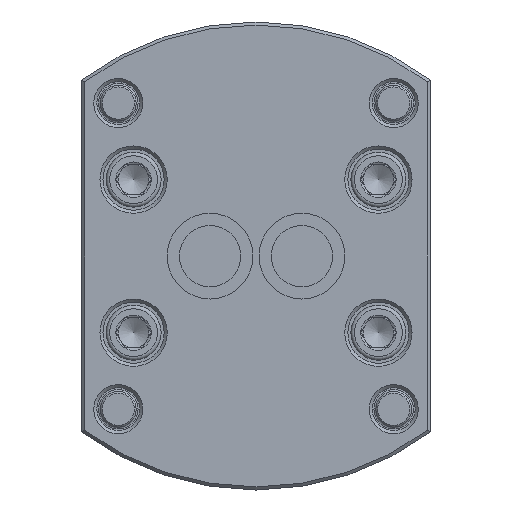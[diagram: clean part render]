
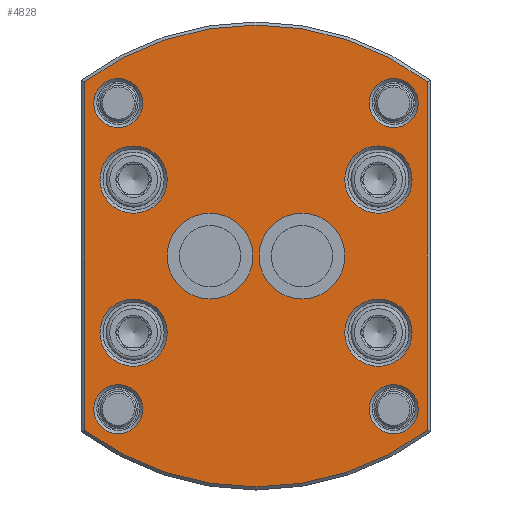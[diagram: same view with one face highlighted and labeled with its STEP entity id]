
A CAD part, front view. The second image highlights one B-rep face of the part: STEP entity #4828.
In plain terms, the highlighted planar face has unit normal (0, -1, 0).
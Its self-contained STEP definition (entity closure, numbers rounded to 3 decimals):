
#2028=LINE('',#22134,#2700);
#2029=LINE('',#22188,#2701);
#2700=VECTOR('',#17897,1.);
#2701=VECTOR('',#17964,1.);
#4828=ADVANCED_FACE('',(#6079,#6080,#6081,#6082,#6083,#6084,#6085,#6086,
#6087,#6088,#6089),#5633,.F.);
#5633=PLANE('',#15571);
#6079=FACE_BOUND('',#6947,.T.);
#6080=FACE_BOUND('',#6948,.T.);
#6081=FACE_BOUND('',#6949,.T.);
#6082=FACE_BOUND('',#6950,.T.);
#6083=FACE_BOUND('',#6951,.T.);
#6084=FACE_BOUND('',#6952,.T.);
#6085=FACE_BOUND('',#6953,.T.);
#6086=FACE_BOUND('',#6954,.T.);
#6087=FACE_BOUND('',#6955,.T.);
#6088=FACE_BOUND('',#6956,.T.);
#6089=FACE_BOUND('',#6957,.T.);
#6947=EDGE_LOOP('',(#8784));
#6948=EDGE_LOOP('',(#8785));
#6949=EDGE_LOOP('',(#8786));
#6950=EDGE_LOOP('',(#8787));
#6951=EDGE_LOOP('',(#8788));
#6952=EDGE_LOOP('',(#8789));
#6953=EDGE_LOOP('',(#8790));
#6954=EDGE_LOOP('',(#8791));
#6955=EDGE_LOOP('',(#8792));
#6956=EDGE_LOOP('',(#8793));
#6957=EDGE_LOOP('',(#8794,#8795,#8796,#8797));
#8784=ORIENTED_EDGE('',*,*,#12988,.T.);
#8785=ORIENTED_EDGE('',*,*,#12985,.T.);
#8786=ORIENTED_EDGE('',*,*,#12982,.T.);
#8787=ORIENTED_EDGE('',*,*,#12979,.T.);
#8788=ORIENTED_EDGE('',*,*,#12991,.T.);
#8789=ORIENTED_EDGE('',*,*,#12992,.T.);
#8790=ORIENTED_EDGE('',*,*,#12976,.T.);
#8791=ORIENTED_EDGE('',*,*,#12973,.T.);
#8792=ORIENTED_EDGE('',*,*,#12962,.F.);
#8793=ORIENTED_EDGE('',*,*,#12958,.F.);
#8794=ORIENTED_EDGE('',*,*,#12968,.T.);
#8795=ORIENTED_EDGE('',*,*,#12993,.T.);
#8796=ORIENTED_EDGE('',*,*,#12964,.T.);
#8797=ORIENTED_EDGE('',*,*,#12972,.T.);
#11627=VERTEX_POINT('',#22090);
#11631=VERTEX_POINT('',#22101);
#11632=VERTEX_POINT('',#22107);
#11634=VERTEX_POINT('',#22110);
#11637=VERTEX_POINT('',#22123);
#11638=VERTEX_POINT('',#22125);
#11640=VERTEX_POINT('',#22137);
#11643=VERTEX_POINT('',#22145);
#11646=VERTEX_POINT('',#22153);
#11649=VERTEX_POINT('',#22161);
#11652=VERTEX_POINT('',#22169);
#11655=VERTEX_POINT('',#22177);
#11658=VERTEX_POINT('',#22185);
#11659=VERTEX_POINT('',#22187);
#12958=EDGE_CURVE('',#11627,#11627,#14462,.T.);
#12962=EDGE_CURVE('',#11631,#11631,#14466,.T.);
#12964=EDGE_CURVE('',#11634,#11632,#14467,.T.);
#12968=EDGE_CURVE('',#11638,#11637,#14469,.T.);
#12972=EDGE_CURVE('',#11632,#11638,#2028,.T.);
#12973=EDGE_CURVE('',#11640,#11640,#14471,.T.);
#12976=EDGE_CURVE('',#11643,#11643,#14474,.T.);
#12979=EDGE_CURVE('',#11646,#11646,#14477,.T.);
#12982=EDGE_CURVE('',#11649,#11649,#14480,.T.);
#12985=EDGE_CURVE('',#11652,#11652,#14483,.T.);
#12988=EDGE_CURVE('',#11655,#11655,#14486,.T.);
#12991=EDGE_CURVE('',#11658,#11658,#14489,.T.);
#12992=EDGE_CURVE('',#11659,#11659,#14490,.T.);
#12993=EDGE_CURVE('',#11637,#11634,#2029,.T.);
#14462=CIRCLE('',#15523,14.);
#14466=CIRCLE('',#15530,14.);
#14467=CIRCLE('',#15532,94.);
#14469=CIRCLE('',#15535,94.);
#14471=CIRCLE('',#15539,8.);
#14474=CIRCLE('',#15544,8.);
#14477=CIRCLE('',#15549,11.);
#14480=CIRCLE('',#15554,11.);
#14483=CIRCLE('',#15559,11.);
#14486=CIRCLE('',#15564,11.);
#14489=CIRCLE('',#15569,8.);
#14490=CIRCLE('',#15570,8.);
#15523=AXIS2_PLACEMENT_3D('',#22089,#17866,#17867);
#15530=AXIS2_PLACEMENT_3D('',#22100,#17880,#17881);
#15532=AXIS2_PLACEMENT_3D('',#22109,#17884,#17885);
#15535=AXIS2_PLACEMENT_3D('',#22124,#17890,#17891);
#15539=AXIS2_PLACEMENT_3D('',#22136,#17900,#17901);
#15544=AXIS2_PLACEMENT_3D('',#22144,#17910,#17911);
#15549=AXIS2_PLACEMENT_3D('',#22152,#17920,#17921);
#15554=AXIS2_PLACEMENT_3D('',#22160,#17930,#17931);
#15559=AXIS2_PLACEMENT_3D('',#22168,#17940,#17941);
#15564=AXIS2_PLACEMENT_3D('',#22176,#17950,#17951);
#15569=AXIS2_PLACEMENT_3D('',#22184,#17960,#17961);
#15570=AXIS2_PLACEMENT_3D('',#22186,#17962,#17963);
#15571=AXIS2_PLACEMENT_3D('',#22189,#17965,#17966);
#17866=DIRECTION('',(0.,-1.,0.));
#17867=DIRECTION('',(0.,0.,1.));
#17880=DIRECTION('',(0.,-1.,0.));
#17881=DIRECTION('',(0.,0.,1.));
#17884=DIRECTION('',(0.,-1.,0.));
#17885=DIRECTION('',(0.,0.,1.));
#17890=DIRECTION('',(0.,-1.,0.));
#17891=DIRECTION('',(0.,0.,1.));
#17897=DIRECTION('',(0.,0.,-1.));
#17900=DIRECTION('',(0.,1.,0.));
#17901=DIRECTION('',(0.,0.,1.));
#17910=DIRECTION('',(0.,1.,0.));
#17911=DIRECTION('',(0.,0.,1.));
#17920=DIRECTION('',(0.,1.,0.));
#17921=DIRECTION('',(0.,0.,1.));
#17930=DIRECTION('',(0.,1.,0.));
#17931=DIRECTION('',(0.,0.,1.));
#17940=DIRECTION('',(0.,1.,0.));
#17941=DIRECTION('',(0.,0.,1.));
#17950=DIRECTION('',(0.,1.,0.));
#17951=DIRECTION('',(0.,0.,1.));
#17960=DIRECTION('',(0.,1.,0.));
#17961=DIRECTION('',(0.,0.,1.));
#17962=DIRECTION('',(0.,1.,0.));
#17963=DIRECTION('',(0.,0.,1.));
#17964=DIRECTION('',(0.,0.,1.));
#17965=DIRECTION('',(0.,1.,0.));
#17966=DIRECTION('',(0.,0.,1.));
#22089=CARTESIAN_POINT('',(38.41,2.5,-55.5));
#22090=CARTESIAN_POINT('',(38.41,2.5,-41.5));
#22100=CARTESIAN_POINT('',(68.41,2.5,-55.5));
#22101=CARTESIAN_POINT('',(68.41,2.5,-41.5));
#22107=CARTESIAN_POINT('',(-2.591,2.5,1.499));
#22109=CARTESIAN_POINT('',(53.409,2.5,-73.999));
#22110=CARTESIAN_POINT('',(109.41,2.5,1.499));
#22123=CARTESIAN_POINT('',(109.41,2.5,-112.398));
#22124=CARTESIAN_POINT('',(53.41,2.5,-36.9));
#22125=CARTESIAN_POINT('',(-2.591,2.5,-112.398));
#22134=CARTESIAN_POINT('',(-2.591,2.5,-111.));
#22136=CARTESIAN_POINT('',(8.409,2.5,-105.5));
#22137=CARTESIAN_POINT('',(8.409,2.5,-97.5));
#22144=CARTESIAN_POINT('',(8.41,2.5,-5.5));
#22145=CARTESIAN_POINT('',(8.41,2.5,2.5));
#22152=CARTESIAN_POINT('',(93.41,2.5,-80.5));
#22153=CARTESIAN_POINT('',(93.41,2.5,-69.5));
#22160=CARTESIAN_POINT('',(13.41,2.5,-80.5));
#22161=CARTESIAN_POINT('',(13.41,2.5,-69.5));
#22168=CARTESIAN_POINT('',(13.41,2.5,-30.5));
#22169=CARTESIAN_POINT('',(13.41,2.5,-19.5));
#22176=CARTESIAN_POINT('',(93.41,2.5,-30.5));
#22177=CARTESIAN_POINT('',(93.41,2.5,-19.5));
#22184=CARTESIAN_POINT('',(98.41,2.5,-105.5));
#22185=CARTESIAN_POINT('',(98.41,2.5,-97.5));
#22186=CARTESIAN_POINT('',(98.41,2.5,-5.5));
#22187=CARTESIAN_POINT('',(98.41,2.5,2.5));
#22188=CARTESIAN_POINT('',(109.41,2.5,-111.));
#22189=CARTESIAN_POINT('',(1.41,2.5,-111.));
